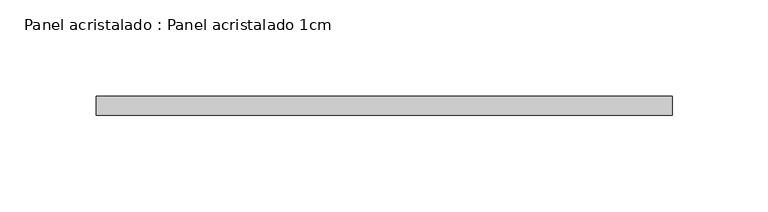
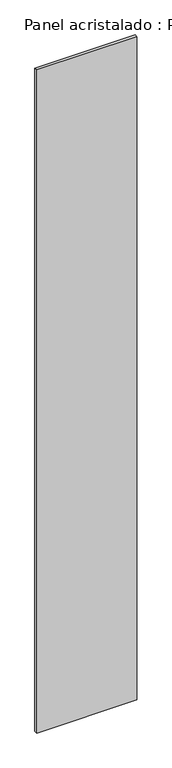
"""IFC4 building model written with IfcOpenShell, lengths in millimetres: plate geometry, Panel acristalado : Panel acristalado 1cm."""

import ifcopenshell
import ifcopenshell.guid

model = None  # the IFC model being written
_history = None  # IfcOwnerHistory: only IFC2X3 demands one
_inside = {}  # id of a spatial element -> (the spatial element, [elements in it])
_under = {}  # id of a project, library or spatial element -> (it, [spatial elements below it])
_declared = {}  # id of a project -> (the project, [libraries it declares])
_typed = {}  # id of a type object -> (the type object, [elements of that type])
_made_of = {}  # id of a material, layer set ... -> (it, [elements and type objects made of it])


def new_model(schema):
    """Start an empty IFC model of exactly this schema.

    Asked for "IFC4X3", IfcOpenShell would pick the latest addendum, in which some entities
    have other attributes; the version numbers below select the first issue.
    IFC2X3 requires an IfcOwnerHistory on every rooted entity: one is made here for all.
    """
    global model, _history
    if schema == "IFC4X3":
        model = ifcopenshell.file(schema_version=(4, 3, 0, 0))
    else:
        model = ifcopenshell.file(schema=schema)
    _inside.clear()
    _under.clear()
    _declared.clear()
    _typed.clear()
    _made_of.clear()
    _history = None
    if model.schema == "IFC2X3":
        org = make("IfcOrganization", Name="unknown")
        user = make(
            "IfcPersonAndOrganization",
            ThePerson=make("IfcPerson", FamilyName="unknown"),
            TheOrganization=org,
        )
        app = make(
            "IfcApplication",
            ApplicationDeveloper=org,
            Version="unknown",
            ApplicationFullName="unknown",
            ApplicationIdentifier="unknown",
        )
        _history = make(
            "IfcOwnerHistory",
            OwningUser=user,
            OwningApplication=app,
            ChangeAction="ADDED",
            CreationDate=0,
        )
    return model


def make(cls, **values):
    """One entity of the class cls with the attributes given. An attribute that is None is left unset."""
    return model.create_entity(
        cls, **{name: value for name, value in values.items() if value is not None}
    )


def rooted(cls, **values):
    """An entity with a GlobalId (a new one), such as an element, a storey or a relation."""
    return make(cls, GlobalId=ifcopenshell.guid.new(), OwnerHistory=_history, **values)


def si_unit(unit_type, name, prefix=None):
    """IfcSIUnit, for example si_unit("LENGTHUNIT", "METRE", prefix="MILLI")."""
    return make("IfcSIUnit", UnitType=unit_type, Prefix=prefix, Name=name)


def assignment(units):
    """IfcUnitAssignment: the units of a project."""
    return None if units is None else make("IfcUnitAssignment", Units=units)


def point(xyz):
    """IfcCartesianPoint."""
    return None if xyz is None else make("IfcCartesianPoint", Coordinates=xyz)


def direction(xyz):
    """IfcDirection."""
    return None if xyz is None else make("IfcDirection", DirectionRatios=xyz)


def frame(location, z_axis=None, x_axis=None):
    """IfcAxis2Placement3D, a coordinate frame: its origin and axes. An axis left out is left unset."""
    return make(
        "IfcAxis2Placement3D",
        Location=point(location),
        Axis=direction(z_axis),
        RefDirection=direction(x_axis),
    )


def origin():
    """The frame at (0, 0, 0) with its axes left unset."""
    return frame((0.0, 0.0, 0.0))


def origin_with_axes():
    """The frame at (0, 0, 0) with the z axis (0, 0, 1) and the x axis (1, 0, 0) written out."""
    return frame((0.0, 0.0, 0.0), z_axis=(0.0, 0.0, 1.0), x_axis=(1.0, 0.0, 0.0))


def place(relative_to, where):
    """IfcLocalPlacement: puts the frame where relative to a parent placement (None: the world)."""
    return make(
        "IfcLocalPlacement", PlacementRelTo=relative_to, RelativePlacement=where
    )


def context(
    kind, dimensions, precision=None, world=None, true_north=None, identifier=None
):
    """IfcGeometricRepresentationContext, for example the 3D "Model" context."""
    return make(
        "IfcGeometricRepresentationContext",
        ContextIdentifier=identifier,
        ContextType=kind,
        CoordinateSpaceDimension=dimensions,
        Precision=precision,
        WorldCoordinateSystem=world,
        TrueNorth=true_north,
    )


def project(units=None, contexts=None):
    """IfcProject with its units and contexts."""
    return rooted(
        "IfcProject",
        Name="project",
        RepresentationContexts=contexts,
        UnitsInContext=assignment(units),
    )


def spatial(cls, under=None, at=None, **own):
    """A site, building, storey or space (cls), placed at a placement, below another one or the project."""
    s = rooted(cls, ObjectPlacement=at, **own)
    if under is not None:
        _under.setdefault(under.id(), (under, []))[1].append(s)
    return s


def polyline(points):
    """IfcPolyline through the points."""
    return make("IfcPolyline", Points=[point(p) for p in points])


def outline(outer, holes=None, kind="AREA"):
    """IfcArbitraryClosedProfileDef: a profile drawn as a closed curve; with holes, ...WithVoids."""
    if holes is None:
        return make("IfcArbitraryClosedProfileDef", ProfileType=kind, OuterCurve=outer)
    return make(
        "IfcArbitraryProfileDefWithVoids",
        ProfileType=kind,
        OuterCurve=outer,
        InnerCurves=holes,
    )


def extrude(swept, where, along, depth):
    """IfcExtrudedAreaSolid: the profile swept, set in the frame where, extruded along a direction by depth."""
    return make(
        "IfcExtrudedAreaSolid",
        SweptArea=swept,
        Position=where,
        ExtrudedDirection=direction(along),
        Depth=depth,
    )


def shape(context_of_items, identifier, shape_type, items):
    """IfcShapeRepresentation: the items that make up one representation, for example the "Body"."""
    return make(
        "IfcShapeRepresentation",
        ContextOfItems=context_of_items,
        RepresentationIdentifier=identifier,
        RepresentationType=shape_type,
        Items=items,
    )


def source(mapping_origin, context_of_items, identifier, shape_type, items):
    """IfcRepresentationMap: a shape defined once, which mapped items show again and again."""
    return make(
        "IfcRepresentationMap",
        MappingOrigin=mapping_origin,
        MappedRepresentation=shape(context_of_items, identifier, shape_type, items),
    )


def transform(
    local_origin,
    x_axis=None,
    y_axis=None,
    z_axis=None,
    scale=None,
    scale2=None,
    scale3=None,
    uniform=True,
):
    """IfcCartesianTransformationOperator3D, or its non-uniform kind. x_axis, y_axis, z_axis: its Axis1, 2, 3."""
    if uniform:
        return make(
            "IfcCartesianTransformationOperator3D",
            Axis1=direction(x_axis),
            Axis2=direction(y_axis),
            LocalOrigin=point(local_origin),
            Scale=scale,
            Axis3=direction(z_axis),
        )
    return make(
        "IfcCartesianTransformationOperator3DnonUniform",
        Axis1=direction(x_axis),
        Axis2=direction(y_axis),
        LocalOrigin=point(local_origin),
        Scale=scale,
        Axis3=direction(z_axis),
        Scale2=scale2,
        Scale3=scale3,
    )


def mapped(mapping_source, mapping_target):
    """IfcMappedItem: shows the shape of a source again, moved by a transform."""
    return make(
        "IfcMappedItem", MappingSource=mapping_source, MappingTarget=mapping_target
    )


def made_of(thing, what):
    """Note that an element or type object is made of a material, layer set ...; save() writes the relation."""
    if what is not None:
        _made_of.setdefault(what.id(), (what, []))[1].append(thing)
    return thing


def element(
    cls,
    number,
    at=None,
    inside=None,
    cuts=None,
    type_object=None,
    material=None,
    context=None,
    identifier="Body",
    shape_type=None,
    held_by="IfcProductDefinitionShape",
    body=None,
    shapes=None,
    **own,
):
    """One element of the class cls, such as IfcWall. Its Tag is "e" and its number.

    at: its placement. inside: the storey or other place that contains it. cuts: it is an
    opening in that element (IfcRelVoidsElement). A single representation is given by context,
    identifier, shape_type and body (its items); several are given by shapes. held_by: the class
    of the entity that holds the representations. save() writes the other relations.
    """
    e = rooted(cls, Tag="e%d" % number, ObjectPlacement=at, **own)
    if body is not None:
        shapes = [shape(context, identifier, shape_type, body)]
    if shapes is not None:
        e.Representation = make(held_by, Representations=shapes)
    if inside is not None:
        _inside.setdefault(inside.id(), (inside, []))[1].append(e)
    if cuts is not None:
        rooted(
            "IfcRelVoidsElement", RelatingBuildingElement=cuts, RelatedOpeningElement=e
        )
    if type_object is not None:
        _typed.setdefault(type_object.id(), (type_object, []))[1].append(e)
    return made_of(e, material)


def aggregate(whole, parts):
    """IfcRelAggregates: a whole, such as a stair, and the parts it consists of."""
    return rooted("IfcRelAggregates", RelatingObject=whole, RelatedObjects=parts)


def save(model, path):
    """Write the relations noted so far, then the file.

    IfcRelAggregates (storeys below a building ...), IfcRelContainedInSpatialStructure (elements
    in a storey), IfcRelDefinesByType, IfcRelAssociatesMaterial and IfcRelDeclares: one each for
    every whole, place, type object, material and project.
    """
    for whole, parts in _under.values():
        aggregate(whole, parts)
    for where, things in _inside.values():
        rooted(
            "IfcRelContainedInSpatialStructure",
            RelatedElements=things,
            RelatingStructure=where,
        )
    for kind, things in _typed.values():
        rooted("IfcRelDefinesByType", RelatedObjects=things, RelatingType=kind)
    for what, things in _made_of.values():
        rooted("IfcRelAssociatesMaterial", RelatedObjects=things, RelatingMaterial=what)
    for by, libraries in _declared.values():
        rooted("IfcRelDeclares", RelatingContext=by, RelatedDefinitions=libraries)
    model.write(path)


def panel_acristalado_panel_acristalado_1cm_362edcc1(model_context):
    return source(origin(), model_context, "Body", "SweptSolid", [
        extrude(outline(polyline([(150.0, -20.0), (150.0, -30.0), (-150.0, -30.0), (-150.0, -20.0), (150.0, -20.0)])), origin_with_axes(), (0.0, 0.0, 1.0), 2100.0),
    ])


if __name__ == "__main__":
    model = new_model("IFC4")
    model_context = context("Model", 3, world=origin())
    ifc_project = project(units=[si_unit("LENGTHUNIT", "METRE", prefix="MILLI")], contexts=[model_context])
    site = spatial("IfcSite", under=ifc_project)
    building = spatial("IfcBuilding", under=site)
    placement = place(None, origin())
    panel_acristalado_panel_acristalado_1cm_shape = panel_acristalado_panel_acristalado_1cm_362edcc1(model_context)
    element("IfcPlate", 1, ObjectType="Panel acristalado : Panel acristalado 1cm", at=placement, inside=building, context=model_context, shape_type="MappedRepresentation", body=[
        mapped(panel_acristalado_panel_acristalado_1cm_shape, transform((0.0, 0.0, 0.0), x_axis=(1.0, 0.0, 0.0), y_axis=(0.0, 1.0, 0.0), z_axis=(0.0, 0.0, 1.0))),
    ])
    save(model, "model.ifc")
